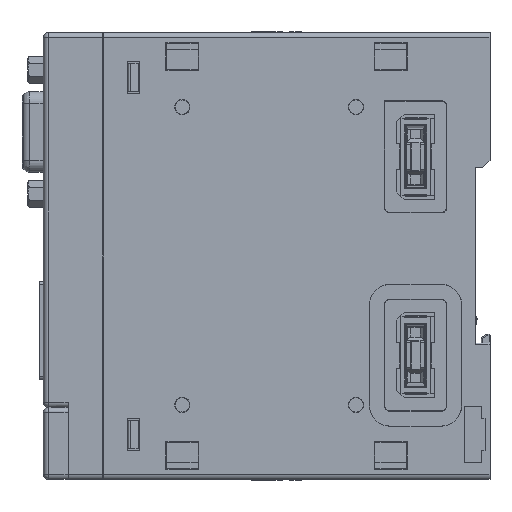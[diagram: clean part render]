
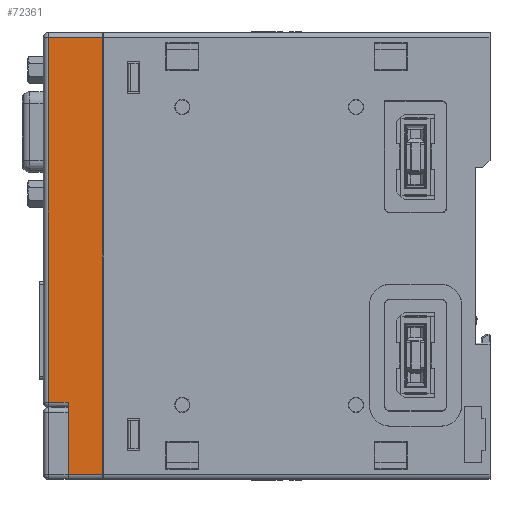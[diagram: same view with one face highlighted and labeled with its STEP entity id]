
A CAD part, left-side view. The second image highlights one B-rep face of the part: STEP entity #72361.
In plain terms, the highlighted planar face has unit normal (-1, 0, 0).
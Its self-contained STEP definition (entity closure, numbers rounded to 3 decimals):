
#8888=DIRECTION('',(0.,0.,-1.));
#8889=VECTOR('',#8888,14.5);
#8890=CARTESIAN_POINT('',(-13.3,85.,-29.5));
#8891=LINE('',#8890,#8889);
#8932=DIRECTION('',(0.,1.,0.));
#8933=VECTOR('',#8932,4.);
#8934=CARTESIAN_POINT('',(-13.3,85.,-29.5));
#8935=LINE('',#8934,#8933);
#8939=DIRECTION('',(0.,0.,1.));
#8940=VECTOR('',#8939,73.5);
#8941=CARTESIAN_POINT('',(-13.3,89.,-29.5));
#8942=LINE('',#8941,#8940);
#8946=DIRECTION('',(0.,-1.,0.));
#8947=VECTOR('',#8946,11.);
#8948=CARTESIAN_POINT('',(-13.3,89.,44.));
#8949=LINE('',#8948,#8947);
#8953=DIRECTION('',(0.,-1.,0.));
#8954=VECTOR('',#8953,7.);
#8955=CARTESIAN_POINT('',(-13.3,85.,-44.));
#8956=LINE('',#8955,#8954);
#9142=DIRECTION('',(0.,0.,1.));
#9143=VECTOR('',#9142,88.);
#9144=CARTESIAN_POINT('',(-13.3,78.,-44.));
#9145=LINE('',#9144,#9143);
#54270=CARTESIAN_POINT('',(-13.3,78.,-44.));
#54272=VERTEX_POINT('',#54270);
#54276=CARTESIAN_POINT('',(-13.3,85.,-44.));
#54277=VERTEX_POINT('',#54276);
#54287=CARTESIAN_POINT('',(-13.3,78.,44.));
#54289=VERTEX_POINT('',#54287);
#54294=CARTESIAN_POINT('',(-13.3,89.,44.));
#54296=VERTEX_POINT('',#54294);
#54306=CARTESIAN_POINT('',(-13.3,85.,-29.5));
#54307=CARTESIAN_POINT('',(-13.3,89.,-29.5));
#54308=VERTEX_POINT('',#54306);
#54309=VERTEX_POINT('',#54307);
#72344=CARTESIAN_POINT('',(-13.3,78.,-45.));
#72345=DIRECTION('',(-1.,0.,0.));
#72346=DIRECTION('',(0.,0.,1.));
#72347=AXIS2_PLACEMENT_3D('',#72344,#72345,#72346);
#72348=PLANE('',#72347);
#72349=ORIENTED_EDGE('',*,*,#72297,.T.);
#72351=ORIENTED_EDGE('',*,*,#72350,.T.);
#72353=ORIENTED_EDGE('',*,*,#72352,.T.);
#72355=ORIENTED_EDGE('',*,*,#72354,.F.);
#72357=ORIENTED_EDGE('',*,*,#72356,.F.);
#72358=ORIENTED_EDGE('',*,*,#72325,.F.);
#72359=EDGE_LOOP('',(#72349,#72351,#72353,#72355,#72357,#72358));
#72360=FACE_OUTER_BOUND('',#72359,.F.);
#72361=ADVANCED_FACE('',(#72360),#72348,.T.);
#72297=EDGE_CURVE('',#54308,#54309,#8935,.T.);
#72325=EDGE_CURVE('',#54308,#54277,#8891,.T.);
#72350=EDGE_CURVE('',#54309,#54296,#8942,.T.);
#72352=EDGE_CURVE('',#54296,#54289,#8949,.T.);
#72354=EDGE_CURVE('',#54272,#54289,#9145,.T.);
#72356=EDGE_CURVE('',#54277,#54272,#8956,.T.);
